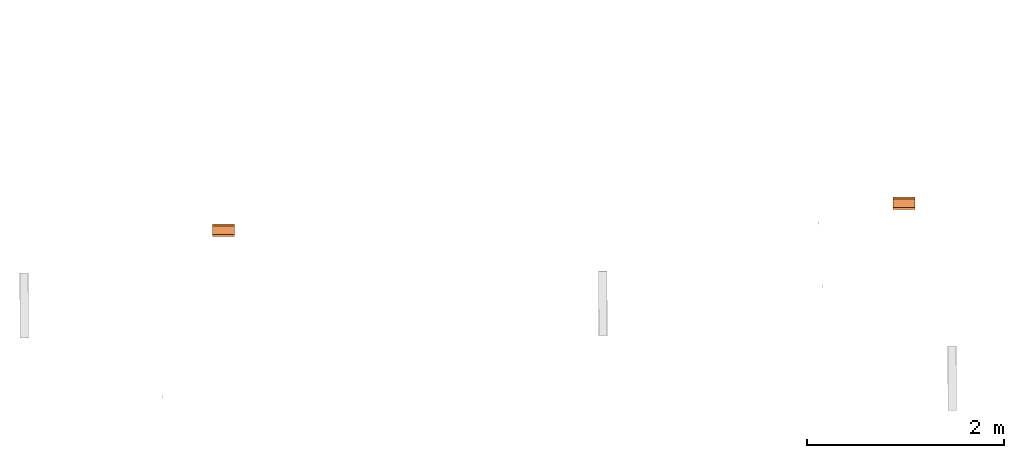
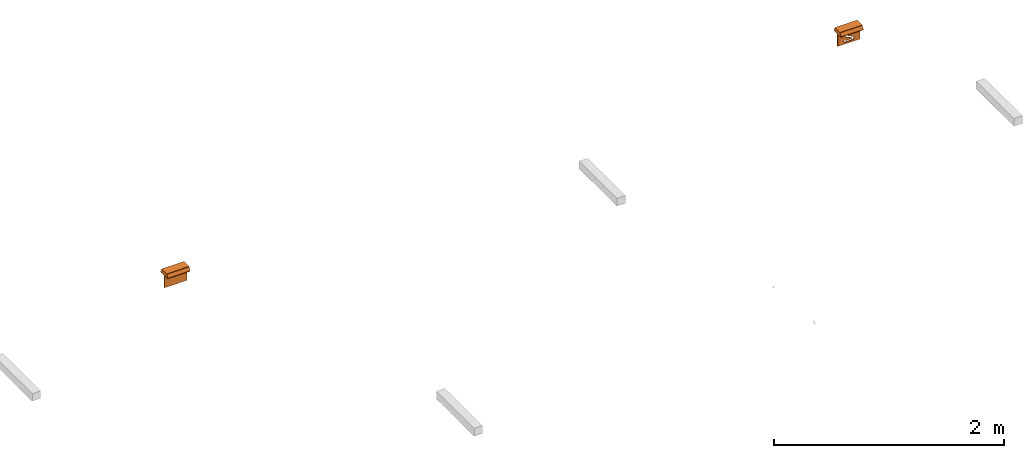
# One storey, part 83 of 197: 2 proxies.
"""IFC2X3 building model written with IfcOpenShell, lengths in metres."""

from ifc_helpers import new_model, entity, si_unit, converted_unit, direction, frame, frame_2d, origin, place, context, subcontext, project, spatial, polyline, circle_curve, parameter, trimmed, segment, composite_curve, circle, outline, extrude, source, transform, mapped, material, material_list, type_object, type_shapes, element, save


model = new_model("IFC2X3")

# Units and contexts
model_context = context("Model", 3, precision=1e-05, world=origin(), true_north=direction((6.123031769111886e-17, 1.0)))
body_context = subcontext(model_context, "Body", "Model", "MODEL_VIEW")
ifc_project = project(units=[si_unit("LENGTHUNIT", "METRE"), converted_unit("PLANEANGLEUNIT", "DEGREE", entity("IfcPlaneAngleMeasure", 0.017453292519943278), si_unit("PLANEANGLEUNIT", "RADIAN"), dimensions=[0, 0, 0, 0, 0, 0, 0]), si_unit("AREAUNIT", "SQUARE_METRE")], contexts=[model_context])

# Site, building, storey
site_placement = place(None, origin())
site = spatial("IfcSite", under=ifc_project, at=site_placement, Name="Default", CompositionType="ELEMENT")
building_placement = place(site_placement, origin())
building = spatial("IfcBuilding", under=site, at=building_placement, CompositionType="ELEMENT")
storey_placement = place(building_placement, origin())
storey = spatial("IfcBuildingStorey", under=building, at=storey_placement, Name="Niveau 0", CompositionType="ELEMENT", Elevation=0.0)

# Proxies
ifc_material_1 = material(Name="BETCE-ENVELOPPE-BLANC")
ifc_material_2 = material(Name="BETCE-ETIQUETTE-VERT 0-193-0")
ifc_material_3 = material(Name="BETCE-VITRE BAES-BLEU")
ifc_material_list_1 = material_list([ifc_material_1, ifc_material_2, ifc_material_3])
building_element_proxy_type_1 = type_object("IfcBuildingElementProxyType", Name="Eclairage de sécurité saillie étanche plafond:GAUCHE", PredefinedType="NOTDEFINED", material=ifc_material_list_1)
shared_shape_1 = source(origin(), body_context, "Body", "SweptSolid", [
    extrude(outline(polyline([(-0.02895906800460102, -0.033302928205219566), (0.012231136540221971, -0.033302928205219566), (0.029966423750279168, -0.012907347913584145), (0.003103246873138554, -0.012907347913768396), (0.03240502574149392, 0.02078969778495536), (0.016088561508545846, 0.03497792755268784), (-0.013213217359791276, 0.0012808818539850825), (-0.016943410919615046, 0.027883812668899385), (-0.03467869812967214, 0.0074882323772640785), (-0.02895906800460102, -0.033302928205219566)])), frame((-0.045353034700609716, -0.004999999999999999, -0.10750000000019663), z_axis=(0.0, 1.0, 0.0), x_axis=(0.6561787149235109, 0.0, 0.7546055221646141)), (0.0, 0.0, 1.0), 0.009999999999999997),
    extrude(outline(composite_curve([segment(trimmed(circle_curve(frame_2d((-0.022195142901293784, -0.014780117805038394), x_axis=(-0.7432901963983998, 0.6689691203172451)), 0.0006000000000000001), [parameter(89.9999999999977)], [parameter(173.97510158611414)], True, "PARAMETER"), True, "CONTINUOUS"), segment(polyline([(-0.021793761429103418, -0.015226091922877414), (-0.011129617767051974, -0.005628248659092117)]), True, "CONTINUOUS"), segment(trimmed(circle_curve(frame_2d((-0.0017573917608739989, -0.016041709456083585), x_axis=(-0.7432901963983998, 0.6689691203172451)), 0.014009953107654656), [parameter(330.5560758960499)], [parameter(353.97510158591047)], True, "PARAMETER"), False, "CONTINUOUS"), segment(polyline([(-0.00621870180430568, -0.002761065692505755), (0.005775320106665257, 0.0017351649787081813)]), True, "CONTINUOUS"), segment(polyline([(0.005775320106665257, 0.0017351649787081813), (-0.0004311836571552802, 0.007321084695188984)]), True, "CONTINUOUS"), segment(polyline([(-0.0004311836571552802, 0.007321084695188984), (-0.011567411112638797, 0.004442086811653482)]), True, "CONTINUOUS"), segment(trimmed(circle_curve(frame_2d((-0.012005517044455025, 0.00712627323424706), x_axis=(-0.7432901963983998, 0.6689691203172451)), 0.0027197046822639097), [parameter(57.327733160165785)], [parameter(141.25747905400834)], True, "PARAMETER"), False, "CONTINUOUS"), segment(trimmed(circle_curve(frame_2d((-0.012005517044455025, 0.00712627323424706), x_axis=(-0.7432901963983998, 0.6689691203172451)), 0.0027197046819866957), [parameter(333.39798722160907)], [parameter(57.32773315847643)], True, "PARAMETER"), False, "CONTINUOUS"), segment(polyline([(-0.012998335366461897, 0.00965828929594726), (-0.00021807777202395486, 0.012998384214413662)]), True, "CONTINUOUS"), segment(trimmed(circle_curve(frame_2d((0.00030725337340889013, 0.007536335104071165), x_axis=(-0.7432901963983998, 0.6689691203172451)), 0.0054872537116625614), [parameter(271.8824185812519)], [parameter(317.4812693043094)], True, "PARAMETER"), False, "CONTINUOUS"), segment(polyline([(0.0038420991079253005, 0.011733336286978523), (0.014901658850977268, 0.0017796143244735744)]), True, "CONTINUOUS"), segment(trimmed(circle_curve(frame_2d((0.006209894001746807, -0.007877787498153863), x_axis=(-0.7432901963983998, 0.6689691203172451)), 0.012992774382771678), [parameter(223.55500193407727)], [parameter(269.9999999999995)], True, "PARAMETER"), False, "CONTINUOUS"), segment(polyline([(0.019197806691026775, -0.00752238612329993), (0.017787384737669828, -0.01891582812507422)]), True, "CONTINUOUS"), segment(polyline([(0.017787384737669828, -0.01891582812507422), (0.022127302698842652, -0.022821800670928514)]), True, "CONTINUOUS"), segment(polyline([(0.022127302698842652, -0.022821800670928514), (0.044393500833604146, 0.001918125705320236)]), True, "CONTINUOUS"), segment(polyline([(0.044393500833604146, 0.001918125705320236), (0.00603048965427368, 0.03644524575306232)]), True, "CONTINUOUS"), segment(polyline([(0.00603048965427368, 0.03644524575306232), (-0.032473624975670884, -0.006336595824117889)]), True, "CONTINUOUS"), segment(polyline([(-0.032473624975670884, -0.006336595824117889), (-0.022596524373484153, -0.015226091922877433)]), True, "CONTINUOUS")], self_intersect=False), holes=[composite_curve([segment(trimmed(circle_curve(frame_2d((0.023878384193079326, 0.0026726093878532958), x_axis=(-0.7432901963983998, 0.6689691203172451)), 0.005405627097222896), [parameter(89.99999999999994)], [parameter(179.99999999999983)], True, "PARAMETER"), False, "CONTINUOUS"), segment(trimmed(circle_curve(frame_2d((0.0238783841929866, 0.002672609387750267), x_axis=(-0.7432901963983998, 0.6689691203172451)), 0.005405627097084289), [parameter(359.99999999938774)], [parameter(89.99999999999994)], True, "PARAMETER"), False, "CONTINUOUS"), segment(trimmed(circle_curve(frame_2d((0.023878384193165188, 0.0026726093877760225), x_axis=(-0.7432901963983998, 0.6689691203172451)), 0.005405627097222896), [parameter(270.00000000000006)], [parameter(359.99999999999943)], True, "PARAMETER"), False, "CONTINUOUS"), segment(trimmed(circle_curve(frame_2d((0.023878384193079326, 0.0026726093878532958), x_axis=(-0.7432901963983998, 0.6689691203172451)), 0.005405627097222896), [parameter(180.00000000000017)], [parameter(269.9999999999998)], True, "PARAMETER"), False, "CONTINUOUS")], self_intersect=False)]), frame((0.04975088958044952, -0.004999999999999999, -0.09879549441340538), z_axis=(0.0, 1.0, 0.0), x_axis=(-0.7432901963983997, 0.0, 0.668969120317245)), (0.0, 0.0, 1.0), 0.009999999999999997),
    extrude(outline(composite_curve([segment(polyline([(-0.03194487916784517, -0.010138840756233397), (0.011174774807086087, -0.010138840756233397)]), True, "CONTINUOUS"), segment(polyline([(0.011174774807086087, -0.010138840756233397), (0.011174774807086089, -0.003797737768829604)]), True, "CONTINUOUS"), segment(trimmed(circle_curve(frame_2d((0.013841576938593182, -0.0037977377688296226), x_axis=(0.0, 1.0)), 0.0026668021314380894), [parameter(39.08958312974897)], [parameter(89.99999999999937)], True, "PARAMETER"), False, "CONTINUOUS"), segment(polyline([(0.012160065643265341, -0.0017278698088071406), (0.02014056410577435, 0.004432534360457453)]), True, "CONTINUOUS"), segment(trimmed(circle_curve(frame_2d((0.01977914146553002, 0.0049007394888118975), x_axis=(0.0, 1.0)), 0.0005914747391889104), [parameter(217.66570843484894)], [parameter(322.33429156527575)], True, "PARAMETER"), True, "CONTINUOUS"), segment(polyline([(0.0201405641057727, 0.0053689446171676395), (0.009450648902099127, 0.010543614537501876)]), True, "CONTINUOUS"), segment(trimmed(circle_curve(frame_2d((0.007662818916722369, 0.006850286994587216), x_axis=(0.0, 1.0)), 0.004103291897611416), [parameter(334.16975689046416)], [parameter(29.199181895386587)], True, "PARAMETER"), True, "CONTINUOUS"), segment(polyline([(0.005661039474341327, 0.010432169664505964), (-0.0260126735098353, -0.0024869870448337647)]), True, "CONTINUOUS"), segment(polyline([(-0.0260126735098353, -0.0024869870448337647), (-0.031944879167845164, -0.00248698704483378)]), True, "CONTINUOUS"), segment(polyline([(-0.031944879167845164, -0.00248698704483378), (-0.03194487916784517, -0.010138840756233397)]), True, "CONTINUOUS")], self_intersect=False)), frame((0.02817564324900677, -0.005, -0.11835202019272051), z_axis=(0.0, 1.0, 0.0), x_axis=(0.0, 0.0, 1.0)), (0.0, 0.0, 1.0), 0.009999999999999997),
    extrude(outline(composite_curve([segment(polyline([(-0.018635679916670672, -0.010044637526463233), (0.012872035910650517, -0.01004463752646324)]), True, "CONTINUOUS"), segment(trimmed(circle_curve(frame_2d((0.013032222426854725, -0.009454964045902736), x_axis=(0.42357253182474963, 0.9058621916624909)), 0.0006110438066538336), [parameter(189.86253455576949)], [parameter(270.0000000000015)], True, "PARAMETER"), True, "CONTINUOUS"), segment(trimmed(circle_curve(frame_2d((0.013032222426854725, -0.009454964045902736), x_axis=(0.42357253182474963, 0.9058621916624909)), 0.0006110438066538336), [parameter(270.0000000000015)], [parameter(350.1374654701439)], True, "PARAMETER"), True, "CONTINUOUS"), segment(polyline([(0.013382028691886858, -0.008953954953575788), (0.0016479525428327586, -0.0007611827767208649)]), True, "CONTINUOUS"), segment(trimmed(circle_curve(frame_2d((0.0035475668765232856, 0.0012940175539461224), x_axis=(0.42357253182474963, 0.9058621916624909)), 0.002798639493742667), [parameter(89.99999999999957)], [parameter(162.31324888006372)], True, "PARAMETER"), False, "CONTINUOUS"), segment(polyline([(0.0010123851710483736, 0.0024794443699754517), (0.008443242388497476, 0.018371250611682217)]), True, "CONTINUOUS"), segment(polyline([(0.008443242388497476, 0.018371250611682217), (-0.00827312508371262, 0.026187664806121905)]), True, "CONTINUOUS"), segment(polyline([(-0.00827312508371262, 0.026187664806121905), (-0.024034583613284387, -0.0075201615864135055)]), True, "CONTINUOUS"), segment(polyline([(-0.024034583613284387, -0.0075201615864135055), (-0.018635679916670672, -0.010044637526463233)]), True, "CONTINUOUS")], self_intersect=False)), frame((0.04943108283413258, -0.004999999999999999, -0.13171021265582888), z_axis=(0.0, 1.0, 0.0), x_axis=(0.42357253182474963, 0.0, 0.9058621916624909)), (0.0, 0.0, 1.0), 0.009999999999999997),
    extrude(outline(polyline([(-0.05249999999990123, -0.10250000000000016), (0.052499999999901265, -0.10250000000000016), (0.052499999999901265, 0.10250000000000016), (-0.05249999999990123, 0.10250000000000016), (-0.05249999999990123, -0.10250000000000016)]), holes=[composite_curve([segment(polyline([(0.04279689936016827, -0.018036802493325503), (0.04279689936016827, -0.025688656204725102)]), True, "CONTINUOUS"), segment(polyline([(0.04279689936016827, -0.025688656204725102), (0.036864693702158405, -0.025688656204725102)]), True, "CONTINUOUS"), segment(polyline([(0.036864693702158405, -0.025688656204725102), (0.005190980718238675, -0.038607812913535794)]), True, "CONTINUOUS"), segment(trimmed(circle_curve(frame_2d((0.0031892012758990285, -0.03502593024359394), x_axis=(0.0, -1.0)), 0.004103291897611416), [parameter(334.1697568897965)], [parameter(29.199181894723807)], True, "PARAMETER"), False, "CONTINUOUS"), segment(polyline([(0.0014013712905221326, -0.038719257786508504), (-0.009288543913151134, -0.03354458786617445)]), True, "CONTINUOUS"), segment(trimmed(circle_curve(frame_2d((-0.008927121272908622, -0.03307638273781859), x_axis=(0.0, -1.0)), 0.0005914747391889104), [parameter(217.66570843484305)], [parameter(322.33429156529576)], True, "PARAMETER"), False, "CONTINUOUS"), segment(polyline([(-0.009288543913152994, -0.03260817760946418), (-0.0013080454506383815, -0.026447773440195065)]), True, "CONTINUOUS"), segment(trimmed(circle_curve(frame_2d((-0.0029895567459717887, -0.0243779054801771), x_axis=(0.0, -1.0)), 0.0026668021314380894), [parameter(39.08958312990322)], [parameter(90.00000000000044)], True, "PARAMETER"), True, "CONTINUOUS"), segment(polyline([(-0.0003227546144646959, -0.024377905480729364), (-0.0003227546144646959, -0.018036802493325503)]), True, "CONTINUOUS"), segment(polyline([(-0.0003227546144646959, -0.018036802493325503), (0.04279689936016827, -0.018036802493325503)]), True, "CONTINUOUS")], self_intersect=False), composite_curve([segment(polyline([(0.04279689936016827, -0.03243846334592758), (0.04279689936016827, -0.06964922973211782)]), True, "CONTINUOUS"), segment(polyline([(0.04279689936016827, -0.06964922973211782), (0.024343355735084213, -0.06964922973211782)]), True, "CONTINUOUS"), segment(polyline([(0.024343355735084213, -0.06964922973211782), (0.024343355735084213, -0.05210593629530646)]), True, "CONTINUOUS"), segment(trimmed(circle_curve(frame_2d((0.02154471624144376, -0.05210593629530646), x_axis=(0.0, -1.0)), 0.002798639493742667), [parameter(90.0000000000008)], [parameter(162.31324887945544)], True, "PARAMETER"), True, "CONTINUOUS"), segment(polyline([(0.022394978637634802, -0.04943958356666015), (0.008295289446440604, -0.046988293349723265)]), True, "CONTINUOUS"), segment(trimmed(circle_curve(frame_2d((0.008399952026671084, -0.04638627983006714), x_axis=(0.0, -1.0)), 0.0006110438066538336), [parameter(269.9999999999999)], [parameter(350.1374654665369)], True, "PARAMETER"), False, "CONTINUOUS"), segment(trimmed(circle_curve(frame_2d((0.008399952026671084, -0.04638627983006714), x_axis=(0.0, -1.0)), 0.0006110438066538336), [parameter(189.86253455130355)], [parameter(269.9999999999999)], True, "PARAMETER"), False, "CONTINUOUS"), segment(polyline([(0.008295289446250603, -0.045784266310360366), (0.03683693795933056, -0.03243846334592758)]), True, "CONTINUOUS"), segment(polyline([(0.03683693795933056, -0.03243846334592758), (0.04279689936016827, -0.03243846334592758)]), True, "CONTINUOUS")], self_intersect=False), composite_curve([segment(polyline([(0.017729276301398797, -0.05636087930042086), (0.017729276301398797, -0.06964922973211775)]), True, "CONTINUOUS"), segment(polyline([(0.017729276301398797, -0.06964922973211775), (-0.039828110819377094, -0.06964922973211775)]), True, "CONTINUOUS"), segment(polyline([(-0.039828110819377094, -0.06964922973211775), (-0.039828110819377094, -0.018036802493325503)]), True, "CONTINUOUS"), segment(polyline([(-0.039828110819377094, -0.018036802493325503), (-0.0065437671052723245, -0.018036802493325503)]), True, "CONTINUOUS"), segment(polyline([(-0.0065437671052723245, -0.018036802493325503), (-0.0065437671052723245, -0.023875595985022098)]), True, "CONTINUOUS"), segment(polyline([(-0.0065437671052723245, -0.023875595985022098), (-0.015955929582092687, -0.030449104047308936)]), True, "CONTINUOUS"), segment(trimmed(circle_curve(frame_2d((-0.007003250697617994, -0.03986513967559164), x_axis=(0.0, -1.0)), 0.012992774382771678), [parameter(223.5550019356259)], [parameter(270.00000000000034)], True, "PARAMETER"), True, "CONTINUOUS"), segment(polyline([(-0.019996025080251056, -0.03986513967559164), (-0.019996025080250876, -0.05474433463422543)]), True, "CONTINUOUS"), segment(trimmed(circle_curve(frame_2d((-0.014511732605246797, -0.05456408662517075), x_axis=(0.0, -1.0)), 0.0054872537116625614), [parameter(271.8824185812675)], [parameter(317.4812693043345)], True, "PARAMETER"), True, "CONTINUOUS"), segment(polyline([(-0.018220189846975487, -0.05860850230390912), (-0.007187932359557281, -0.06587352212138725)]), True, "CONTINUOUS"), segment(trimmed(circle_curve(frame_2d((-0.00597007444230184, -0.06344172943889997), x_axis=(0.0, -1.0)), 0.0027197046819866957), [parameter(333.3979871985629)], [parameter(57.32773315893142)], True, "PARAMETER"), True, "CONTINUOUS"), segment(trimmed(circle_curve(frame_2d((-0.005970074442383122, -0.06344172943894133), x_axis=(0.0, -1.0)), 0.0027197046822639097), [parameter(57.32773315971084)], [parameter(141.25747905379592)], True, "PARAMETER"), True, "CONTINUOUS"), segment(polyline([(-0.004268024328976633, -0.061320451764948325), (-0.01385774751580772, -0.054968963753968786)]), True, "CONTINUOUS"), segment(polyline([(-0.01385774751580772, -0.054968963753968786), (-0.01385774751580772, -0.04661892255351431)]), True, "CONTINUOUS"), segment(polyline([(-0.01385774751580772, -0.04661892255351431), (-0.0024921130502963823, -0.052526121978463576)]), True, "CONTINUOUS"), segment(trimmed(circle_curve(frame_2d((0.004394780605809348, -0.04032573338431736), x_axis=(0.0, -1.0)), 0.014009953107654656), [parameter(330.55607589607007)], [parameter(353.9751015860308)], True, "PARAMETER"), True, "CONTINUOUS"), segment(polyline([(0.0029242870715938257, -0.05425830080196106), (0.01719225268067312, -0.05576419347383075)]), True, "CONTINUOUS"), segment(trimmed(circle_curve(frame_2d((0.01712927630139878, -0.05636087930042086), x_axis=(0.0, -1.0)), 0.0006000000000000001), [parameter(90.00000000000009)], [parameter(173.9751015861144)], True, "PARAMETER"), False, "CONTINUOUS")], self_intersect=False), polyline([(0.0, 0.08948593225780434), (0.031082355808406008, 0.06245779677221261), (0.031082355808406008, 0.03542966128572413), (0.010811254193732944, 0.05305670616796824), (0.010811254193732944, 0.008401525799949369), (-0.010811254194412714, 0.008401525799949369), (-0.010811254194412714, 0.053056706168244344), (-0.031082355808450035, 0.03542966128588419), (-0.031082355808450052, 0.06245779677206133), (0.0, 0.08948593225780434)])]), frame((0.0, -0.005, -0.10750000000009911), z_axis=(0.0, 1.0, 0.0), x_axis=(0.0, 0.0, -1.0)), (0.0, 0.0, 1.0), 0.01),
    extrude(circle(Radius=0.005405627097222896, at=frame_2d((2.8873636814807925e-14, 0.0), x_axis=(1.0, 0.0))), frame((0.0337902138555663, -0.005, -0.08083506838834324), z_axis=(0.0, 1.0, 0.0), x_axis=(1.0, 0.0, 0.0)), (0.0, 0.0, 1.0), 0.01),
    extrude(outline(polyline([(-0.06250000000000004, -0.11175180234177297), (0.062499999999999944, -0.11175180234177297), (0.06249999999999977, -5.459731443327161e-05), (0.0625000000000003, 0.11324819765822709), (-0.06249999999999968, 0.1132481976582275), (-0.06250000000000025, -0.0029381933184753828), (-0.06250000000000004, -0.11175180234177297)]), holes=[polyline([(0.052499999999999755, 0.001302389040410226), (0.05249999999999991, -0.10175180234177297), (-0.05250000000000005, -0.10175180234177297), (-0.05250000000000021, -0.0022597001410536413), (-0.05249999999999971, 0.10324819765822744), (0.05250000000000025, 0.10324819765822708), (0.052499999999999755, 0.001302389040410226)])]), frame((-0.0007481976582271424, -0.005, -0.10750000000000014), z_axis=(0.0, 1.0, 0.0), x_axis=(0.0, 0.0, 1.0)), (0.0, 0.0, 1.0), 0.01),
    extrude(outline(composite_curve([segment(trimmed(circle_curve(frame_2d((-0.001999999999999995, -0.05449999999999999), x_axis=(1.0, 0.0)), 0.008), [parameter(269.9999999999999)], [parameter(0.0)], True, "PARAMETER"), True, "CONTINUOUS"), segment(polyline([(0.006000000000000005, -0.05449999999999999), (0.006000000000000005, 0.054500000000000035)]), True, "CONTINUOUS"), segment(trimmed(circle_curve(frame_2d((-0.001999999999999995, 0.05450000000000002), x_axis=(1.0, 0.0)), 0.008), [parameter(359.99999999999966)], [parameter(89.99999999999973)], True, "PARAMETER"), True, "CONTINUOUS"), segment(polyline([(-0.0019999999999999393, 0.06250000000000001), (-0.00399999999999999, 0.06250000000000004)]), True, "CONTINUOUS"), segment(polyline([(-0.00399999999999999, 0.06250000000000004), (-0.00399999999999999, -0.0625)]), True, "CONTINUOUS"), segment(polyline([(-0.00399999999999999, -0.0625), (-0.001999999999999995, -0.0625)]), True, "CONTINUOUS")], self_intersect=False)), frame((-0.1125, 0.0019999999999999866, -0.039), z_axis=(1.0, 0.0, 0.0), x_axis=(0.0, 0.0, -1.0)), (0.0, 0.0, 1.0), 0.22499999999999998),
    extrude(outline(polyline([(-0.06250000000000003, -0.02205897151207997), (0.06250000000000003, -0.02205897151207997), (0.044499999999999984, 0.00911794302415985), (0.044499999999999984, 0.012941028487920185), (-0.044499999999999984, 0.012941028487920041), (-0.04449999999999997, 0.009117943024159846), (-0.06250000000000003, -0.02205897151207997)])), frame((-0.11249999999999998, 0.002000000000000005, -0.012941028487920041), z_axis=(1.0, 0.0, 0.0), x_axis=(0.0, 1.0, 0.0)), (0.0, 0.0, 1.0), 0.225),
])
type_shapes(building_element_proxy_type_1, [shared_shape_1])
proxy_1_placement = place(storey_placement, frame((22.397581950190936, 150.3123104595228, 2.3653316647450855), z_axis=(0.0, 0.0, 1.0), x_axis=(0.999977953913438, 0.006640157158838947, 0.0)))
element("IfcBuildingElementProxy", 1, at=proxy_1_placement, inside=storey, type_object=building_element_proxy_type_1, material=ifc_material_list_1, Name="Eclairage de sécurité saillie étanche plafond:GAUCHE", ObjectType="Eclairage de sécurité saillie étanche plafond:GAUCHE", context=body_context, shape_type="MappedRepresentation", body=[
    mapped(shared_shape_1, transform((0.0, 0.0, 0.0), scale=1.0)),
])
ifc_material_list_2 = material_list([ifc_material_2, ifc_material_1, ifc_material_3])
building_element_proxy_type_2 = type_object("IfcBuildingElementProxyType", Name="Eclairage de sécurité saillie étanche plafond:SORTIE", PredefinedType="NOTDEFINED", material=ifc_material_list_2)
shared_shape_2 = source(origin(), body_context, "Body", "SweptSolid", [
    extrude(outline(polyline([(-0.05249999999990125, -0.10250000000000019), (0.05249999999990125, -0.10250000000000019), (0.05249999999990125, 0.10250000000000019), (-0.05249999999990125, 0.10250000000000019), (-0.05249999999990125, -0.10250000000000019)]), holes=[composite_curve([segment(trimmed(circle_curve(frame_2d((-0.03544806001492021, 0.041676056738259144), x_axis=(0.0, -1.0)), 0.008677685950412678), [parameter(179.9999999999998)], [parameter(269.9999999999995)], True, "PARAMETER"), False, "CONTINUOUS"), segment(polyline([(-0.03544806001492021, 0.05035374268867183), (-0.024600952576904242, 0.05035374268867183)]), True, "CONTINUOUS"), segment(trimmed(circle_curve(frame_2d((-0.024600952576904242, 0.0382049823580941), x_axis=(0.0, -1.0)), 0.01214876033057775), [parameter(125.70439290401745)], [parameter(179.9999999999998)], True, "PARAMETER"), False, "CONTINUOUS"), segment(polyline([(-0.014735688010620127, 0.045295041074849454), (0.0245331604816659, -0.031263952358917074)]), True, "CONTINUOUS"), segment(trimmed(circle_curve(frame_2d((0.02611047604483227, -0.029068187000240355), x_axis=(0.0, -1.0)), 0.0027035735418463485), [parameter(324.30863793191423)], [parameter(90.0000000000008)], True, "PARAMETER"), True, "CONTINUOUS"), segment(polyline([(0.02881404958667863, -0.029068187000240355), (0.028814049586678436, 0.026056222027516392)]), True, "CONTINUOUS"), segment(trimmed(circle_curve(frame_2d((0.024475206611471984, 0.026056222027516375), x_axis=(0.0, -1.0)), 0.004338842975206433), [parameter(90.00000000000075)], [parameter(180.00000000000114)], True, "PARAMETER"), True, "CONTINUOUS"), segment(polyline([(0.024475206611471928, 0.030395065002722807), (0.024475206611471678, 0.05035374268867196)]), True, "CONTINUOUS"), segment(polyline([(0.024475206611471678, 0.05035374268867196), (0.0353223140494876, 0.05035374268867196)]), True, "CONTINUOUS"), segment(trimmed(circle_curve(frame_2d((0.0353223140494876, 0.04167605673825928), x_axis=(0.0, -1.0)), 0.008677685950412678), [parameter(90.00000000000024)], [parameter(179.99999999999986)], True, "PARAMETER"), False, "CONTINUOUS"), segment(polyline([(0.043999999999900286, 0.041676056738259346), (0.04399999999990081, -0.04247476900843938)]), True, "CONTINUOUS"), segment(trimmed(circle_curve(frame_2d((0.03532231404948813, -0.04247476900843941), x_axis=(0.0, -1.0)), 0.008677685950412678), [parameter(3.5622212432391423e-13)], [parameter(89.99999999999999)], True, "PARAMETER"), False, "CONTINUOUS"), segment(polyline([(0.03532231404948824, -0.05115245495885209), (0.024475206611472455, -0.05115245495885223)]), True, "CONTINUOUS"), segment(trimmed(circle_curve(frame_2d((0.024475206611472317, -0.0390036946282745), x_axis=(0.0, -1.0)), 0.01214876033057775), [parameter(305.7043929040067)], [parameter(3.053332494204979e-13)], True, "PARAMETER"), False, "CONTINUOUS"), segment(polyline([(0.014609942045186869, -0.04609375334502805), (-0.023851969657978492, 0.02889202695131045)]), True, "CONTINUOUS"), segment(trimmed(circle_curve(frame_2d((-0.026249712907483, 0.027662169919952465), x_axis=(0.0, -1.0)), 0.00269008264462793), [parameter(117.15431896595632)], [parameter(270.00000000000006)], True, "PARAMETER"), True, "CONTINUOUS"), segment(polyline([(-0.02893979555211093, 0.027662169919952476), (-0.02893979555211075, -0.026854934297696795)]), True, "CONTINUOUS"), segment(trimmed(circle_curve(frame_2d((-0.02460095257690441, -0.026854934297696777), x_axis=(0.0, -1.0)), 0.004338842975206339), [parameter(270.00000000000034)], [parameter(9.159997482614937e-13)], True, "PARAMETER"), True, "CONTINUOUS"), segment(polyline([(-0.02460095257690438, -0.031193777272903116), (-0.024600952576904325, -0.051152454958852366)]), True, "CONTINUOUS"), segment(polyline([(-0.024600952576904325, -0.051152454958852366), (-0.03544806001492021, -0.051152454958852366)]), True, "CONTINUOUS"), segment(trimmed(circle_curve(frame_2d((-0.03544806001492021, -0.04247476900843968), x_axis=(0.0, -1.0)), 0.008677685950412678), [parameter(269.99999999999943)], [parameter(359.9999999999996)], True, "PARAMETER"), False, "CONTINUOUS"), segment(polyline([(-0.04412574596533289, -0.04247476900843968), (-0.04412574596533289, 0.041676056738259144)]), True, "CONTINUOUS")], self_intersect=False)]), frame((0.0, -0.005, -0.10750000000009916), z_axis=(0.0, 1.0, 0.0), x_axis=(0.0, 0.0, -1.0)), (0.0, 0.0, 1.0), 0.01),
    extrude(outline(polyline([(-0.06250000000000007, -0.11175180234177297), (0.06249999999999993, -0.11175180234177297), (0.06249999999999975, -5.459731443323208e-05), (0.06250000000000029, 0.11324819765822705), (-0.0624999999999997, 0.11324819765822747), (-0.06250000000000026, -0.0029381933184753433), (-0.06250000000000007, -0.11175180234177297)]), holes=[polyline([(0.05249999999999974, 0.0013023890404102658), (0.052499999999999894, -0.10175180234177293), (-0.05250000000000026, -0.10175180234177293), (-0.052500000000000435, -0.002259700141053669), (-0.05249999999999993, 0.10324819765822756), (0.052500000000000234, 0.10324819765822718), (0.05249999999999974, 0.0013023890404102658)])]), frame((-0.0007481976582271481, -0.005, -0.10750000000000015), z_axis=(0.0, 1.0, 0.0), x_axis=(0.0, 0.0, 1.0)), (0.0, 0.0, 1.0), 0.01),
    extrude(outline(composite_curve([segment(trimmed(circle_curve(frame_2d((-0.001999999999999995, -0.05449999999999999), x_axis=(1.0, 0.0)), 0.008), [parameter(269.9999999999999)], [parameter(0.0)], True, "PARAMETER"), True, "CONTINUOUS"), segment(polyline([(0.006000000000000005, -0.05449999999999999), (0.006000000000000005, 0.054500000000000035)]), True, "CONTINUOUS"), segment(trimmed(circle_curve(frame_2d((-0.001999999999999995, 0.05450000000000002), x_axis=(1.0, 0.0)), 0.008), [parameter(359.99999999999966)], [parameter(89.99999999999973)], True, "PARAMETER"), True, "CONTINUOUS"), segment(polyline([(-0.0019999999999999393, 0.06250000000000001), (-0.00399999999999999, 0.06250000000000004)]), True, "CONTINUOUS"), segment(polyline([(-0.00399999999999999, 0.06250000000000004), (-0.00399999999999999, -0.0625)]), True, "CONTINUOUS"), segment(polyline([(-0.00399999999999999, -0.0625), (-0.001999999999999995, -0.0625)]), True, "CONTINUOUS")], self_intersect=False)), frame((-0.1125, 0.0019999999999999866, -0.039), z_axis=(1.0, 0.0, 0.0), x_axis=(0.0, 0.0, -1.0)), (0.0, 0.0, 1.0), 0.22499999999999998),
    extrude(outline(polyline([(-0.06250000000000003, -0.02205897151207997), (0.06250000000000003, -0.02205897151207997), (0.044499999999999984, 0.00911794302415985), (0.044499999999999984, 0.012941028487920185), (-0.044499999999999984, 0.012941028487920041), (-0.04449999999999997, 0.009117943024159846), (-0.06250000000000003, -0.02205897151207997)])), frame((-0.11249999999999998, 0.002000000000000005, -0.012941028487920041), z_axis=(1.0, 0.0, 0.0), x_axis=(0.0, 1.0, 0.0)), (0.0, 0.0, 1.0), 0.225),
])
type_shapes(building_element_proxy_type_2, [shared_shape_2])
proxy_2_placement = place(storey_placement, frame((29.307996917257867, 150.58559064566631, 2.340000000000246)))
element("IfcBuildingElementProxy", 2, at=proxy_2_placement, inside=storey, type_object=building_element_proxy_type_2, material=ifc_material_list_2, Name="Eclairage de sécurité saillie étanche plafond:SORTIE", ObjectType="Eclairage de sécurité saillie étanche plafond:SORTIE", context=body_context, shape_type="MappedRepresentation", body=[
    mapped(shared_shape_2, transform((0.0, 0.0, 0.0), scale=1.0)),
])

save(model, "model.ifc")
